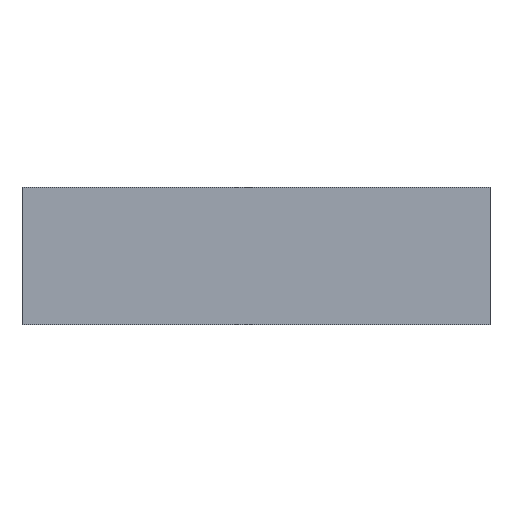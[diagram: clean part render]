
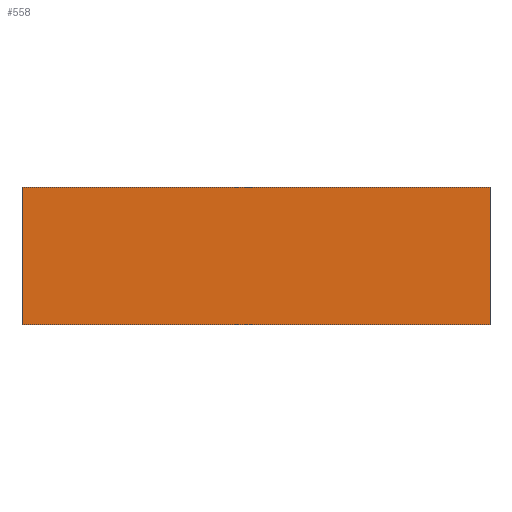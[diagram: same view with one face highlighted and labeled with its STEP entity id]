
A CAD part, front view. The second image highlights one B-rep face of the part: STEP entity #558.
In plain terms, the highlighted planar face has unit normal (0, -1, 0).
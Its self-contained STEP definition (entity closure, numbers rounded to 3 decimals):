
#6 = VERTEX_POINT ( 'NONE', #88 ) ;
#14 = VERTEX_POINT ( 'NONE', #87 ) ;
#37 = DIRECTION ( 'NONE',  ( -1., 0., 0. ) ) ;
#38 = DIRECTION ( 'NONE',  ( 0., 1., 0. ) ) ;
#44 = CARTESIAN_POINT ( 'NONE',  ( -204., 0., 120. ) ) ;
#48 = PLANE ( 'NONE',  #638 ) ;
#77 = CARTESIAN_POINT ( 'NONE',  ( 204., 0., 120. ) ) ;
#87 = CARTESIAN_POINT ( 'NONE',  ( -204., 0., 0. ) ) ;
#88 = CARTESIAN_POINT ( 'NONE',  ( 204., 0., 0. ) ) ;
#99 = VERTEX_POINT ( 'NONE', #77 ) ;
#177 = EDGE_LOOP ( 'NONE', ( #703, #717, #719, #710 ) ) ;
#240 = FACE_OUTER_BOUND ( 'NONE', #177, .T. ) ;
#295 = LINE ( 'NONE', #445, #296 ) ;
#296 = VECTOR ( 'NONE', #446, 1000. ) ;
#327 = LINE ( 'NONE', #479, #328 ) ;
#328 = VECTOR ( 'NONE', #480, 1000. ) ;
#335 = LINE ( 'NONE', #487, #336 ) ;
#336 = VECTOR ( 'NONE', #488, 1000. ) ;
#347 = LINE ( 'NONE', #500, #348 ) ;
#348 = VECTOR ( 'NONE', #501, 1000. ) ;
#405 = CARTESIAN_POINT ( 'NONE',  ( -204., 0., 120. ) ) ;
#445 = CARTESIAN_POINT ( 'NONE',  ( -204., 0., 120. ) ) ;
#446 = DIRECTION ( 'NONE',  ( 0., 0., -1. ) ) ;
#479 = CARTESIAN_POINT ( 'NONE',  ( -204., 0., 0. ) ) ;
#480 = DIRECTION ( 'NONE',  ( 1., 0., 0. ) ) ;
#487 = CARTESIAN_POINT ( 'NONE',  ( -204., 0., 120. ) ) ;
#488 = DIRECTION ( 'NONE',  ( 1., 0., 0. ) ) ;
#500 = CARTESIAN_POINT ( 'NONE',  ( 204., 0., 120. ) ) ;
#501 = DIRECTION ( 'NONE',  ( 0., 0., -1. ) ) ;
#558 = ADVANCED_FACE ( 'NONE', ( #240 ), #48, .F. ) ;
#594 = VERTEX_POINT ( 'NONE', #405 ) ;
#629 = EDGE_CURVE ( 'NONE', #594, #14, #295, .T. ) ;
#638 = AXIS2_PLACEMENT_3D ( 'NONE', #44, #38, #37 ) ;
#655 = EDGE_CURVE ( 'NONE', #14, #6, #327, .T. ) ;
#659 = EDGE_CURVE ( 'NONE', #594, #99, #335, .T. ) ;
#669 = EDGE_CURVE ( 'NONE', #99, #6, #347, .T. ) ;
#703 = ORIENTED_EDGE ( 'NONE', *, *, #655, .T. ) ;
#710 = ORIENTED_EDGE ( 'NONE', *, *, #629, .T. ) ;
#717 = ORIENTED_EDGE ( 'NONE', *, *, #669, .F. ) ;
#719 = ORIENTED_EDGE ( 'NONE', *, *, #659, .F. ) ;
